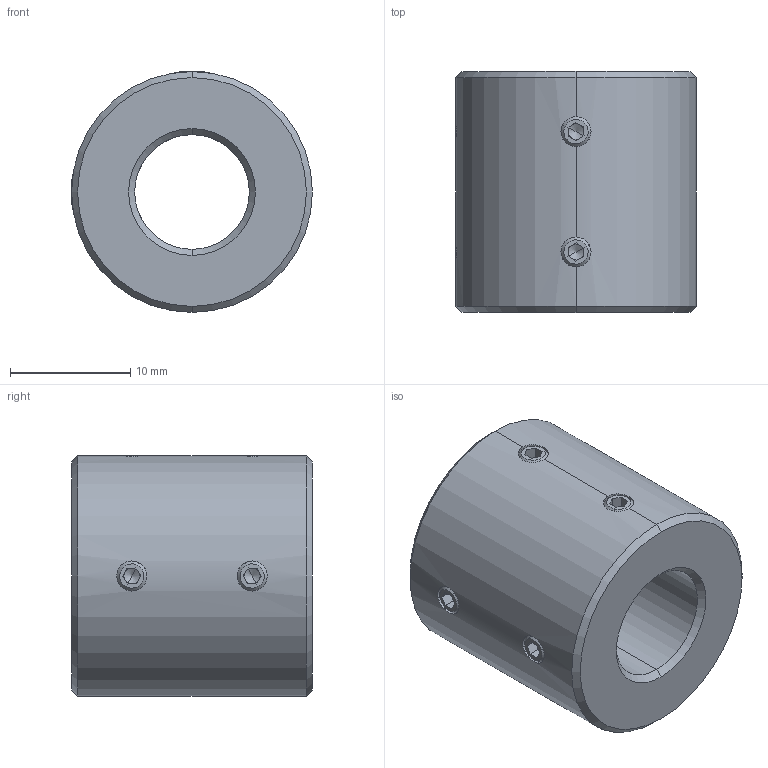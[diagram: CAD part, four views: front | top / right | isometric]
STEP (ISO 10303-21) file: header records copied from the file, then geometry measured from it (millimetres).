
FILE_DESCRIPTION (( 'STEP AP214' ), '1' );
FILE_NAME ('LL-D-D20L20-9.525-9.525.STEP', '2022-07-23T06:38:50', ( '' ), ( '' ), 'SwSTEP 2.0', 'SolidWorks 2022', '' );
FILE_SCHEMA (( 'AUTOMOTIVE_DESIGN' ));
Length unit declared in the file: millimetre
Products named in the file (1): LL-D-D20L20-9.525-9.525
Bounding box: 20 x 20 x 20 mm (x, y, z)
Volume: 4798.2 mm3; surface area: 2380.5 mm2
Topology: 1 solids, 1 shells, 110 faces, 280 edges, 172 vertices
Faces by surface type: plane 58, cone 32, cylinder 20
Entity records: 3558 total; most frequent: CARTESIAN_POINT 875, DIRECTION 566, ORIENTED_EDGE 544, EDGE_CURVE 272, AXIS2_PLACEMENT_3D 207, VERTEX_POINT 172, VECTOR 152, LINE 152
